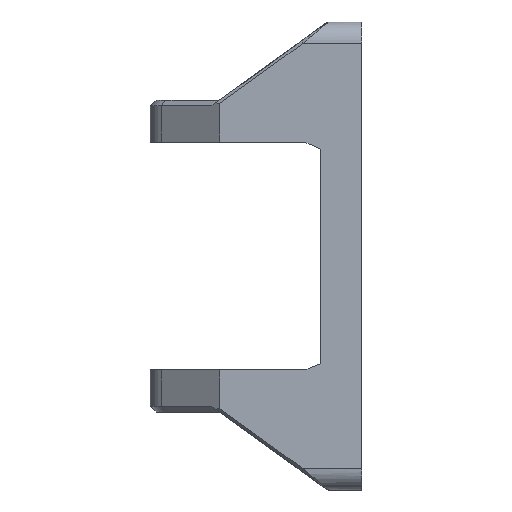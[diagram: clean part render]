
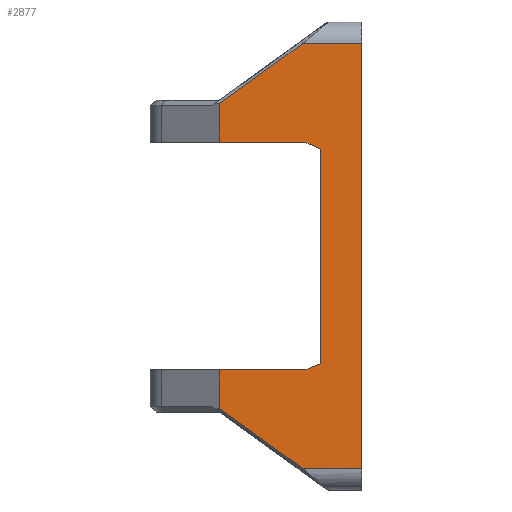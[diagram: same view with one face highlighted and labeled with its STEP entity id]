
A CAD part, left-side view. The second image highlights one B-rep face of the part: STEP entity #2877.
In plain terms, the highlighted planar face has unit normal (-1, 0, 0).
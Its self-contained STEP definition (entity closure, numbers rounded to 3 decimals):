
#24 = CARTESIAN_POINT ( 'NONE',  ( -64.3, 0., 55. ) ) ;
#95 = CARTESIAN_POINT ( 'NONE',  ( -64.3, 0., -75. ) ) ;
#147 = DIRECTION ( 'NONE',  ( -1., 0., 0. ) ) ;
#284 = CARTESIAN_POINT ( 'NONE',  ( -64.3, 50., -40.15 ) ) ;
#353 = AXIS2_PLACEMENT_3D ( 'NONE', #2908, #147, #2950 ) ;
#458 = VERTEX_POINT ( 'NONE', #2547 ) ;
#479 = ORIENTED_EDGE ( 'NONE', *, *, #4031, .F. ) ;
#486 = CARTESIAN_POINT ( 'NONE',  ( -64.3, 49.414, 54.19 ) ) ;
#523 = VERTEX_POINT ( 'NONE', #902 ) ;
#547 = DIRECTION ( 'NONE',  ( 0., 0.81, -0.586 ) ) ;
#563 = CARTESIAN_POINT ( 'NONE',  ( -64.3, 20., -40.15 ) ) ;
#565 = CARTESIAN_POINT ( 'NONE',  ( -64.3, 50., -75. ) ) ;
#579 = DIRECTION ( 'NONE',  ( 0., -1., 0. ) ) ;
#596 = DIRECTION ( 'NONE',  ( 0., 0.909, 0.417 ) ) ;
#667 = CARTESIAN_POINT ( 'NONE',  ( -64.3, 50., 75. ) ) ;
#692 = LINE ( 'NONE', #1913, #1575 ) ;
#742 = VERTEX_POINT ( 'NONE', #95 ) ;
#751 = LINE ( 'NONE', #565, #4801 ) ;
#902 = CARTESIAN_POINT ( 'NONE',  ( -64.3, 50., 53.766 ) ) ;
#931 = VECTOR ( 'NONE', #596, 1000. ) ;
#932 = CARTESIAN_POINT ( 'NONE',  ( -64.3, 50., -53.766 ) ) ;
#945 = ORIENTED_EDGE ( 'NONE', *, *, #1096, .T. ) ;
#976 = ORIENTED_EDGE ( 'NONE', *, *, #4174, .F. ) ;
#1065 = DIRECTION ( 'NONE',  ( 0., -1., 0. ) ) ;
#1091 = CARTESIAN_POINT ( 'NONE',  ( -64.3, 50., 40.15 ) ) ;
#1096 = EDGE_CURVE ( 'NONE', #3051, #523, #1303, .T. ) ;
#1178 = VECTOR ( 'NONE', #2065, 1000. ) ;
#1234 = VECTOR ( 'NONE', #1065, 1000. ) ;
#1303 = LINE ( 'NONE', #486, #3120 ) ;
#1304 = CARTESIAN_POINT ( 'NONE',  ( -64.3, 20., 40.15 ) ) ;
#1489 = ORIENTED_EDGE ( 'NONE', *, *, #2356, .F. ) ;
#1552 = CARTESIAN_POINT ( 'NONE',  ( -64.3, 20.658, -75. ) ) ;
#1575 = VECTOR ( 'NONE', #2151, 1000. ) ;
#1604 = CARTESIAN_POINT ( 'NONE',  ( -64.3, 20., 40.15 ) ) ;
#1886 = VECTOR ( 'NONE', #3265, 1000. ) ;
#1905 = VERTEX_POINT ( 'NONE', #2764 ) ;
#1913 = CARTESIAN_POINT ( 'NONE',  ( -64.3, 20., -40.15 ) ) ;
#1932 = ORIENTED_EDGE ( 'NONE', *, *, #2480, .T. ) ;
#2049 = CARTESIAN_POINT ( 'NONE',  ( -64.3, 14.5, -50. ) ) ;
#2055 = VERTEX_POINT ( 'NONE', #932 ) ;
#2065 = DIRECTION ( 'NONE',  ( 0., 0., 1. ) ) ;
#2098 = ORIENTED_EDGE ( 'NONE', *, *, #2434, .F. ) ;
#2151 = DIRECTION ( 'NONE',  ( 0., -0.928, 0.371 ) ) ;
#2222 = EDGE_CURVE ( 'NONE', #2819, #742, #751, .T. ) ;
#2342 = VECTOR ( 'NONE', #2704, 1000. ) ;
#2356 = EDGE_CURVE ( 'NONE', #3051, #2464, #3693, .T. ) ;
#2367 = ORIENTED_EDGE ( 'NONE', *, *, #3638, .F. ) ;
#2371 = EDGE_CURVE ( 'NONE', #3201, #523, #4307, .T. ) ;
#2381 = ORIENTED_EDGE ( 'NONE', *, *, #2371, .F. ) ;
#2386 = EDGE_CURVE ( 'NONE', #2523, #3201, #3842, .T. ) ;
#2396 = CARTESIAN_POINT ( 'NONE',  ( -64.3, 101.658, -16.382 ) ) ;
#2412 = DIRECTION ( 'NONE',  ( 0., -0.81, -0.586 ) ) ;
#2428 = EDGE_CURVE ( 'NONE', #458, #1905, #4762, .T. ) ;
#2434 = EDGE_CURVE ( 'NONE', #2611, #458, #692, .T. ) ;
#2457 = EDGE_CURVE ( 'NONE', #2978, #2611, #2548, .T. ) ;
#2464 = VERTEX_POINT ( 'NONE', #4333 ) ;
#2480 = EDGE_CURVE ( 'NONE', #2055, #2819, #4846, .T. ) ;
#2523 = VERTEX_POINT ( 'NONE', #1604 ) ;
#2547 = CARTESIAN_POINT ( 'NONE',  ( -64.3, 14.5, -37.95 ) ) ;
#2548 = LINE ( 'NONE', #4201, #3332 ) ;
#2611 = VERTEX_POINT ( 'NONE', #563 ) ;
#2612 = ORIENTED_EDGE ( 'NONE', *, *, #2428, .F. ) ;
#2629 = LINE ( 'NONE', #4869, #2342 ) ;
#2704 = DIRECTION ( 'NONE',  ( 0., 0., 1. ) ) ;
#2764 = CARTESIAN_POINT ( 'NONE',  ( -64.3, 14.5, 37.629 ) ) ;
#2819 = VERTEX_POINT ( 'NONE', #1552 ) ;
#2877 = ADVANCED_FACE ( 'NONE', ( #4336 ), #3355, .T. ) ;
#2908 = CARTESIAN_POINT ( 'NONE',  ( -64.3, 50., 55. ) ) ;
#2941 = VECTOR ( 'NONE', #3274, 1000. ) ;
#2950 = DIRECTION ( 'NONE',  ( 0., 0., 1. ) ) ;
#2978 = VERTEX_POINT ( 'NONE', #284 ) ;
#3039 = ORIENTED_EDGE ( 'NONE', *, *, #2222, .T. ) ;
#3051 = VERTEX_POINT ( 'NONE', #3624 ) ;
#3075 = VECTOR ( 'NONE', #2412, 1000. ) ;
#3120 = VECTOR ( 'NONE', #547, 1000. ) ;
#3201 = VERTEX_POINT ( 'NONE', #1091 ) ;
#3265 = DIRECTION ( 'NONE',  ( 0., 1., 0. ) ) ;
#3274 = DIRECTION ( 'NONE',  ( 0., 0., -1. ) ) ;
#3332 = VECTOR ( 'NONE', #3716, 1000. ) ;
#3355 = PLANE ( 'NONE',  #353 ) ;
#3453 = VECTOR ( 'NONE', #4483, 1000. ) ;
#3522 = EDGE_LOOP ( 'NONE', ( #1489, #945, #2381, #3850, #479, #2612, #2098, #4115, #976, #1932, #3039, #2367 ) ) ;
#3624 = CARTESIAN_POINT ( 'NONE',  ( -64.3, 20.658, 75. ) ) ;
#3638 = EDGE_CURVE ( 'NONE', #2464, #742, #4819, .T. ) ;
#3693 = LINE ( 'NONE', #667, #1234 ) ;
#3716 = DIRECTION ( 'NONE',  ( 0., -1., 0. ) ) ;
#3842 = LINE ( 'NONE', #1304, #1886 ) ;
#3850 = ORIENTED_EDGE ( 'NONE', *, *, #2386, .F. ) ;
#4031 = EDGE_CURVE ( 'NONE', #1905, #2523, #4363, .T. ) ;
#4115 = ORIENTED_EDGE ( 'NONE', *, *, #2457, .F. ) ;
#4174 = EDGE_CURVE ( 'NONE', #2055, #2978, #2629, .T. ) ;
#4201 = CARTESIAN_POINT ( 'NONE',  ( -64.3, 20., -40.15 ) ) ;
#4307 = LINE ( 'NONE', #4744, #3453 ) ;
#4333 = CARTESIAN_POINT ( 'NONE',  ( -64.3, 0., 75. ) ) ;
#4336 = FACE_OUTER_BOUND ( 'NONE', #3522, .T. ) ;
#4363 = LINE ( 'NONE', #4499, #931 ) ;
#4483 = DIRECTION ( 'NONE',  ( 0., 0., 1. ) ) ;
#4499 = CARTESIAN_POINT ( 'NONE',  ( -64.3, 8., 34.65 ) ) ;
#4744 = CARTESIAN_POINT ( 'NONE',  ( -64.3, 50., -145. ) ) ;
#4762 = LINE ( 'NONE', #2049, #1178 ) ;
#4801 = VECTOR ( 'NONE', #579, 1000. ) ;
#4819 = LINE ( 'NONE', #24, #2941 ) ;
#4846 = LINE ( 'NONE', #2396, #3075 ) ;
#4869 = CARTESIAN_POINT ( 'NONE',  ( -64.3, 50., -145. ) ) ;
